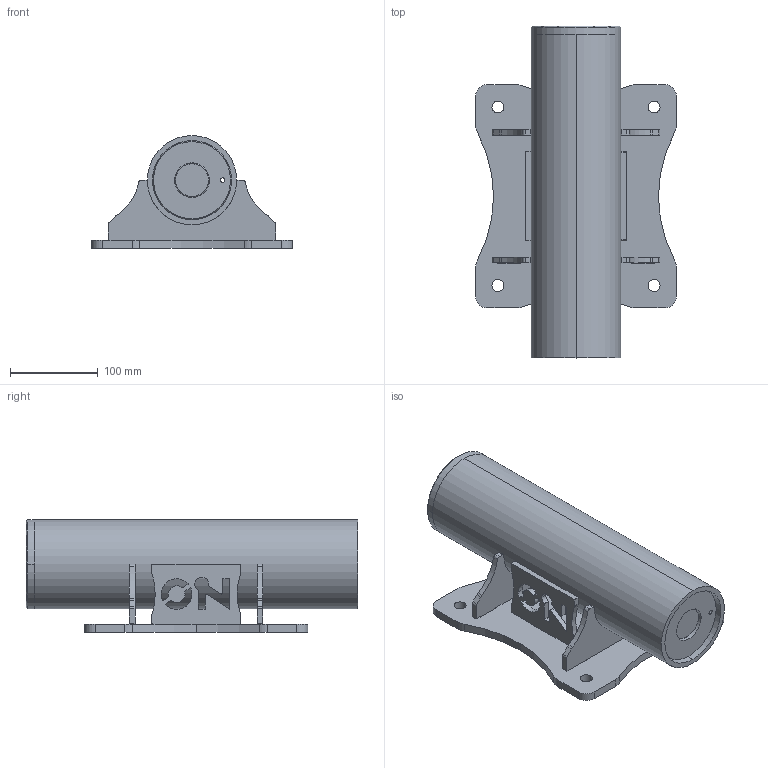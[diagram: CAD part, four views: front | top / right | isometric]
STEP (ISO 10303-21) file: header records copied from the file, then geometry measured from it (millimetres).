
FILE_DESCRIPTION (( 'STEP AP203' ), '1' );
FILE_NAME ('OZWALL3.STEP', '2022-03-02T20:36:11', ( '' ), ( '' ), 'SwSTEP 2.0', 'SolidWorks 2021', '' );
FILE_SCHEMA (( 'CONFIG_CONTROL_DESIGN' ));
Length unit declared in the file: inch
Products named in the file (10): SWB5304; OZWALL3; SWB5300; SWB5302; SWB5308; SWB5301; SWB5306; SWB5303; SXB7005; SWB5307
Assembly tree (10 placements, depth 3):
  OZWALL3
    SWB5300
      SWB5301
      SWB5306  x2
      SWB5308
      SWB5307
      SWB5303
      SWB5302
      SWB5304
    SXB7005
Bounding box: 228.6 x 377.82 x 128.59 mm (x, y, z)
Volume: 1505933.8 mm3; surface area: 474987.5 mm2
Topology: 9 solids, 9 shells, 315 faces, 871 edges, 576 vertices
Faces by surface type: cylinder 175, plane 126, cone 12, torus 2
Entity records: 10133 total; most frequent: DIRECTION 1669, CARTESIAN_POINT 1558, ORIENTED_EDGE 1526, EDGE_CURVE 763, AXIS2_PLACEMENT_3D 615, VERTEX_POINT 504, VECTOR 439, LINE 439
